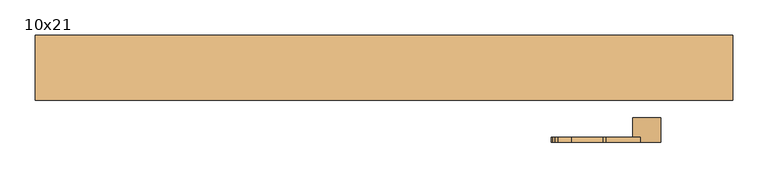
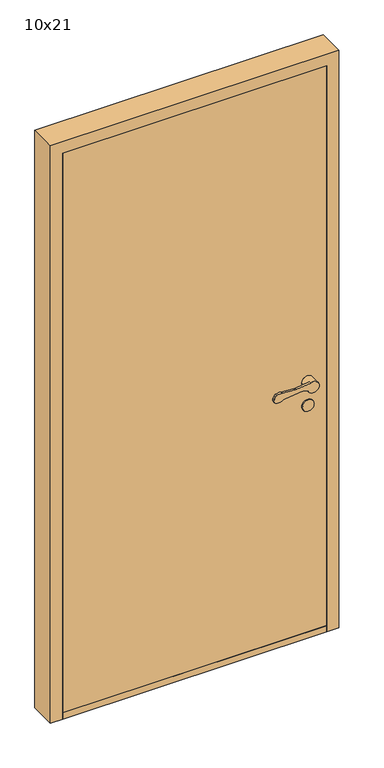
"""IFC4 building model written with IfcOpenShell, lengths in millimetres: door geometry, Innerdør Slett (Diplomat) : 10x21."""

from ifc_helpers import new_model, si_unit, point, frame, frame_2d, origin, origin_with_axes, place, context, project, spatial, polyline, circle_curve, trimmed, segment, composite_curve, outline, extrude, source, transform, mapped, element, save
from ifc_brep_helpers import plane_surface, cylinder_surface, revolved_surface, advanced_brep


def door_10x21_b150b6ae(model_context):
    return source(origin(), model_context, "Body", "SolidModel", [
        advanced_brep(
        [(393.9611305, 45.0, 949.1175955), (388.8520664, 45.0, 949.9496913), (326.0476109, 45.0, 943.6260011), (296.721536, 45.0, 938.7393398), (291.8691983, 45.0, 951.8913379), (295.505009, 45.0, 959.9624074), (300.3175669, 45.0, 964.8810513), (318.8963175, 45.0, 967.2639242), (363.6202158, 45.0, 964.1804415), (368.6891233, 45.0, 964.26032), (417.2687793, 45.0, 969.1517356), (446.379633, 45.0, 951.3474568), (408.3841161, 45.0, 942.6204086), (368.6891233, 37.8915284, 964.26032), (363.6202158, 37.8915284, 964.1804415), (318.8963175, 37.8915284, 967.2639242), (300.3175669, 37.8915284, 964.8810513), (295.505009, 37.8915284, 959.9624074), (291.8691983, 37.8915284, 951.8913379), (296.721536, 37.8915284, 938.7393398), (326.0476109, 37.8915284, 943.6260011), (388.8520664, 37.8915284, 949.9496913), (393.9611305, 37.8915284, 949.1175955), (408.3841161, 37.8915284, 942.6204086), (406.379633, 37.8915284, 951.3474568), (417.2687793, 37.8915284, 969.1517356), (446.379633, 10.0, 951.3474568), (406.379633, 10.0, 951.3474568)],
        [
            (0, 1, circle_curve(frame((389.8538865, 45.0, 940.0), z_axis=(0.0, -1.0, 0.0), x_axis=(-0.9949691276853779, 0.0, -0.10018200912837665)), 10.0)),
            (1, 2),
            (2, 3, circle_curve(frame((307.8569644, 45.0, 962.352734), z_axis=(0.0, 1.0, 0.0), x_axis=(-0.9949691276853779, 0.0, -0.10018200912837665)), 26.1072815)),
            (3, 4, circle_curve(frame((300.9867937, 45.0, 947.7840939), z_axis=(0.0, 1.0, 0.0), x_axis=(-0.9949691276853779, 0.0, -0.10018200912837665)), 10.0)),
            (4, 5),
            (5, 6, circle_curve(frame((304.6226045, 45.0, 955.8551634), z_axis=(0.0, 1.0, 0.0), x_axis=(-0.9949691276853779, 0.0, -0.10018200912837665)), 10.0)),
            (6, 7, circle_curve(frame((313.2326797, 45.0, 937.8033877), z_axis=(0.0, 1.0, 0.0), x_axis=(-0.9949691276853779, 0.0, -0.10018200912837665)), 30.0)),
            (7, 8),
            (8, 9, circle_curve(frame((365.683663, 45.0, 994.1093938), z_axis=(0.0, -1.0, 0.0), x_axis=(-0.9949691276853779, 0.0, -0.10018200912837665)), 30.0)),
            (9, 10),
            (10, 11, circle_curve(frame((426.379633, 45.0, 951.3474568), z_axis=(0.0, 1.0, 0.0), x_axis=(-1.0, 0.0, 0.0)), 20.0)),
            (11, 12, circle_curve(frame((426.379633, 45.0, 951.3474568), z_axis=(0.0, 1.0, 0.0), x_axis=(-1.0, 0.0, 0.0)), 20.0)),
            (12, 0),
            (13, 14, circle_curve(frame((365.683663, 37.8915284, 994.1093938), z_axis=(0.0, 1.0, 0.0), x_axis=(-0.9949691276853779, 0.0, -0.10018200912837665)), 30.0)),
            (14, 15),
            (15, 16, circle_curve(frame((313.2326797, 37.8915284, 937.8033877), z_axis=(0.0, -1.0, 0.0), x_axis=(-0.9949691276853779, 0.0, -0.10018200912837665)), 30.0)),
            (16, 17, circle_curve(frame((304.6226045, 37.8915284, 955.8551634), z_axis=(0.0, -1.0, 0.0), x_axis=(-0.9949691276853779, 0.0, -0.10018200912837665)), 10.0)),
            (17, 18),
            (18, 19, circle_curve(frame((300.9867937, 37.8915284, 947.7840939), z_axis=(0.0, -1.0, 0.0), x_axis=(-0.9949691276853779, 0.0, -0.10018200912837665)), 10.0)),
            (19, 20, circle_curve(frame((307.8569644, 37.8915284, 962.352734), z_axis=(0.0, -1.0, 0.0), x_axis=(-0.9949691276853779, 0.0, -0.10018200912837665)), 26.1072815)),
            (20, 21),
            (21, 22, circle_curve(frame((389.8538865, 37.8915284, 940.0), z_axis=(0.0, 1.0, 0.0), x_axis=(-0.9949691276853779, 0.0, -0.10018200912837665)), 10.0)),
            (22, 23),
            (23, 24, circle_curve(frame((426.379633, 37.8915284, 951.3474568), z_axis=(0.0, 1.0, 0.0), x_axis=(-1.0, 0.0, 0.0)), 20.0)),
            (24, 25, circle_curve(frame((426.379633, 37.8915284, 951.3474568), z_axis=(0.0, 1.0, 0.0), x_axis=(-1.0, 0.0, 0.0)), 20.0)),
            (25, 13),
            (9, 13),
            (25, 10),
            (22, 0),
            (12, 23),
            (21, 1),
            (20, 2),
            (19, 3),
            (18, 4),
            (17, 5),
            (16, 6),
            (15, 7),
            (14, 8),
            (26, 27, circle_curve(frame((426.379633, 10.0, 951.3474568), z_axis=(0.0, -1.0, 0.0), x_axis=(-1.0, 0.0, 0.0)), 20.0)),
            (27, 26, circle_curve(frame((426.379633, 10.0, 951.3474568), z_axis=(0.0, -1.0, 0.0), x_axis=(-1.0, 0.0, 0.0)), 20.0)),
            (27, 24),
            (11, 26),
        ],
        [
            plane_surface(frame((417.6960588, 45.0, 969.1947577), z_axis=(0.0, 1.0000000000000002, 0.0), x_axis=(0.9949691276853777, 0.0, 0.10018200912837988))),
            plane_surface(frame((417.6960588, 37.8915284, 969.1947577), z_axis=(0.0, -1.0000000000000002, 0.0), x_axis=(-0.9949691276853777, 0.0, -0.10018200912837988))),
            plane_surface(frame((368.6891233, 45.0, 964.26032), z_axis=(-0.10018200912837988, 0.0, 0.9949691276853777), x_axis=(0.0, -1.0, 0.0))),
            plane_surface(frame((426.9687366, 45.0, 934.2485115), z_axis=(-0.41072439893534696, 0.0, -0.91175954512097), x_axis=(0.0, -1.0, 0.0))),
            revolved_surface(polyline([(379.9041952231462, 37.8915284, 938.9981799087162), (379.9041952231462, 45.0, 938.9981799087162)]), (389.8538865, 37.8915284, 940.0), (0.0, -1.0, 0.0)),
            plane_surface(frame((388.8520664, 45.0, 949.9496913), z_axis=(0.10018200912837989, 0.0, -0.9949691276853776), x_axis=(0.0, -1.0, 0.0))),
            cylinder_surface(frame((307.8569644, 37.8915284, 962.352734), z_axis=(0.0, 1.0, 0.0), x_axis=(-0.9949691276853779, 0.0, -0.10018200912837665)), 26.1072815),
            cylinder_surface(frame((300.9867937, 37.8915284, 947.7840939), z_axis=(0.0, 1.0, 0.0), x_axis=(-0.9949691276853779, 0.0, -0.10018200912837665)), 10.0),
            plane_surface(frame((291.8691983, 45.0, 951.8913379), z_axis=(-0.9117595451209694, 0.0, 0.41072439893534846), x_axis=(0.0, -1.0, 0.0))),
            cylinder_surface(frame((304.6226045, 37.8915284, 955.8551634), z_axis=(0.0, 1.0, 0.0), x_axis=(-0.9949691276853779, 0.0, -0.10018200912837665)), 10.0),
            cylinder_surface(frame((313.2326797, 37.8915284, 937.8033877), z_axis=(0.0, 1.0, 0.0), x_axis=(-0.9949691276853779, 0.0, -0.10018200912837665)), 30.0),
            plane_surface(frame((318.8963175, 45.0, 967.2639242), z_axis=(0.06878157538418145, 0.0, 0.9976317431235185), x_axis=(0.0, -1.0, 0.0))),
            revolved_surface(polyline([(335.8345891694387, 37.8915284, 991.1039335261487), (335.8345891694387, 45.0, 991.1039335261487)]), (365.683663, 37.8915284, 994.1093938), (0.0, -1.0, 0.0)),
            plane_surface(frame((406.379633, 10.0, 951.3474568), z_axis=(0.0, -1.0, 0.0), x_axis=(0.0, 0.0, -1.0))),
            cylinder_surface(frame((426.379633, 10.0, 951.3474568), z_axis=(0.0, 1.0, 0.0), x_axis=(-1.0, 0.0, 0.0)), 20.0),
        ],
        [
            (0, [[1, 2, 3, 4, 5, 6, 7, 8, 9, 10, 11, 12, 13]]),
            (1, [[14, 15, 16, 17, 18, 19, 20, 21, 22, 23, 24, 25, 26]]),
            (2, [[27, -26, 28, -10]]),
            (3, [[29, -13, 30, -23]]),
            (4, [[-1, -29, -22, 31]]),
            (5, [[-2, -31, -21, 32]]),
            (6, [[-3, -32, -20, 33]]),
            (7, [[-4, -33, -19, 34]]),
            (8, [[-5, -34, -18, 35]]),
            (9, [[-6, -35, -17, 36]]),
            (10, [[-7, -36, -16, 37]]),
            (11, [[-8, -37, -15, 38]]),
            (12, [[-9, -38, -14, -27]]),
            (13, [[39, 40]]),
            (14, [[-40, 41, -24, -30, -12, 42]]),
            (14, [[-39, -42, -11, -28, -25, -41]]),
        ],
    ),
        extrude(outline(composite_curve([segment(trimmed(circle_curve(frame_2d((866.3474568, 426.379633)), 20.0), [point((866.3474568, 446.379633))], [point((866.3474568, 406.379633))], False, "CARTESIAN"), True, "CONTINUOUS"), segment(trimmed(circle_curve(frame_2d((866.3474568, 426.379633)), 20.0), [point((866.3474568, 406.379633))], [point((866.3474568, 446.379633))], False, "CARTESIAN"), True, "CONTINUOUS")], self_intersect=False)), frame((0.0, 10.0, 0.0), z_axis=(0.0, 1.0, 0.0), x_axis=(0.0, 0.0, 1.0)), (0.0, 0.0, 1.0), 5.0),
        advanced_brep(
        [(393.9611305, -100.0, 949.1175955), (408.3841161, -100.0, 942.6204086), (446.379633, -100.0, 951.3474568), (417.2687793, -100.0, 969.1517356), (368.6891233, -100.0, 964.26032), (363.6202158, -100.0, 964.1804415), (318.8963175, -100.0, 967.2639242), (300.3175669, -100.0, 964.8810513), (295.505009, -100.0, 959.9624074), (291.8691983, -100.0, 951.8913379), (296.721536, -100.0, 938.7393398), (326.0476109, -100.0, 943.6260011), (388.8520664, -100.0, 949.9496913), (368.6891233, -92.8915284, 964.26032), (417.2687793, -92.8915284, 969.1517356), (406.379633, -92.8915284, 951.3474568), (408.3841161, -92.8915284, 942.6204086), (393.9611305, -92.8915284, 949.1175955), (388.8520664, -92.8915284, 949.9496913), (326.0476109, -92.8915284, 943.6260011), (296.721536, -92.8915284, 938.7393398), (291.8691983, -92.8915284, 951.8913379), (295.505009, -92.8915284, 959.9624074), (300.3175669, -92.8915284, 964.8810513), (318.8963175, -92.8915284, 967.2639242), (363.6202158, -92.8915284, 964.1804415), (446.379633, -65.0, 951.3474568), (406.379633, -65.0, 951.3474568)],
        [
            (0, 1),
            (1, 2, circle_curve(frame((426.379633, -100.0, 951.3474568), z_axis=(0.0, -1.0, 0.0), x_axis=(-1.0, 0.0, 0.0)), 20.0)),
            (2, 3, circle_curve(frame((426.379633, -100.0, 951.3474568), z_axis=(0.0, -1.0, 0.0), x_axis=(-1.0, 0.0, 0.0)), 20.0)),
            (3, 4),
            (4, 5, circle_curve(frame((365.683663, -100.0, 994.1093938), z_axis=(0.0, 1.0, 0.0), x_axis=(-0.9949691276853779, 0.0, -0.10018200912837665)), 30.0)),
            (5, 6),
            (6, 7, circle_curve(frame((313.2326797, -100.0, 937.8033877), z_axis=(0.0, -1.0, 0.0), x_axis=(-0.9949691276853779, 0.0, -0.10018200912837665)), 30.0)),
            (7, 8, circle_curve(frame((304.6226045, -100.0, 955.8551634), z_axis=(0.0, -1.0, 0.0), x_axis=(-0.9949691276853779, 0.0, -0.10018200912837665)), 10.0)),
            (8, 9),
            (9, 10, circle_curve(frame((300.9867937, -100.0, 947.7840939), z_axis=(0.0, -1.0, 0.0), x_axis=(-0.9949691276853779, 0.0, -0.10018200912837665)), 10.0)),
            (10, 11, circle_curve(frame((307.8569644, -100.0, 962.352734), z_axis=(0.0, -1.0, 0.0), x_axis=(-0.9949691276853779, 0.0, -0.10018200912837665)), 26.1072815)),
            (11, 12),
            (12, 0, circle_curve(frame((389.8538865, -100.0, 940.0), z_axis=(0.0, 1.0, 0.0), x_axis=(-0.9949691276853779, 0.0, -0.10018200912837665)), 10.0)),
            (13, 14),
            (14, 15, circle_curve(frame((426.379633, -92.8915284, 951.3474568), z_axis=(0.0, -1.0, 0.0), x_axis=(-1.0, 0.0, 0.0)), 20.0)),
            (15, 16, circle_curve(frame((426.379633, -92.8915284, 951.3474568), z_axis=(0.0, -1.0, 0.0), x_axis=(-1.0, 0.0, 0.0)), 20.0)),
            (16, 17),
            (17, 18, circle_curve(frame((389.8538865, -92.8915284, 940.0), z_axis=(0.0, -1.0, 0.0), x_axis=(-0.9949691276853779, 0.0, -0.10018200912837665)), 10.0)),
            (18, 19),
            (19, 20, circle_curve(frame((307.8569644, -92.8915284, 962.352734), z_axis=(0.0, 1.0, 0.0), x_axis=(-0.9949691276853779, 0.0, -0.10018200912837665)), 26.1072815)),
            (20, 21, circle_curve(frame((300.9867937, -92.8915284, 947.7840939), z_axis=(0.0, 1.0, 0.0), x_axis=(-0.9949691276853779, 0.0, -0.10018200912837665)), 10.0)),
            (21, 22),
            (22, 23, circle_curve(frame((304.6226045, -92.8915284, 955.8551634), z_axis=(0.0, 1.0, 0.0), x_axis=(-0.9949691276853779, 0.0, -0.10018200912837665)), 10.0)),
            (23, 24, circle_curve(frame((313.2326797, -92.8915284, 937.8033877), z_axis=(0.0, 1.0, 0.0), x_axis=(-0.9949691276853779, 0.0, -0.10018200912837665)), 30.0)),
            (24, 25),
            (25, 13, circle_curve(frame((365.683663, -92.8915284, 994.1093938), z_axis=(0.0, -1.0, 0.0), x_axis=(-0.9949691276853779, 0.0, -0.10018200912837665)), 30.0)),
            (3, 14),
            (13, 4),
            (16, 1),
            (0, 17),
            (12, 18),
            (11, 19),
            (10, 20),
            (9, 21),
            (8, 22),
            (7, 23),
            (6, 24),
            (5, 25),
            (26, 27, circle_curve(frame((426.379633, -65.0, 951.3474568), z_axis=(0.0, 1.0, 0.0), x_axis=(-1.0, 0.0, 0.0)), 20.0)),
            (27, 26, circle_curve(frame((426.379633, -65.0, 951.3474568), z_axis=(0.0, 1.0, 0.0), x_axis=(-1.0, 0.0, 0.0)), 20.0)),
            (26, 2),
            (15, 27),
        ],
        [
            plane_surface(frame((417.6960588, -100.0, 969.1947577), z_axis=(0.0, -1.0000000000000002, 0.0), x_axis=(0.9949691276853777, 0.0, 0.10018200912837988))),
            plane_surface(frame((417.6960588, -92.8915284, 969.1947577), z_axis=(0.0, 1.0000000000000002, 0.0), x_axis=(-0.9949691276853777, 0.0, -0.10018200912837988))),
            plane_surface(frame((368.6891233, -100.0, 964.26032), z_axis=(-0.10018200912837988, 0.0, 0.9949691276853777), x_axis=(0.0, 1.0, 0.0))),
            plane_surface(frame((426.9687366, -100.0, 934.2485115), z_axis=(-0.41072439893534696, 0.0, -0.91175954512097), x_axis=(0.0, 1.0, 0.0))),
            revolved_surface(polyline([(379.9041952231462, -92.8915284, 938.9981799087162), (379.9041952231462, -100.0, 938.9981799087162)]), (389.8538865, -92.8915284, 940.0), (0.0, 1.0, 0.0)),
            plane_surface(frame((388.8520664, -100.0, 949.9496913), z_axis=(0.10018200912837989, 0.0, -0.9949691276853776), x_axis=(0.0, 1.0, 0.0))),
            cylinder_surface(frame((307.8569644, -92.8915284, 962.352734), z_axis=(0.0, -1.0, 0.0), x_axis=(-0.9949691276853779, 0.0, -0.10018200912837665)), 26.1072815),
            cylinder_surface(frame((300.9867937, -92.8915284, 947.7840939), z_axis=(0.0, -1.0, 0.0), x_axis=(-0.9949691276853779, 0.0, -0.10018200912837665)), 10.0),
            plane_surface(frame((291.8691983, -100.0, 951.8913379), z_axis=(-0.9117595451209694, 0.0, 0.41072439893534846), x_axis=(0.0, 1.0, 0.0))),
            cylinder_surface(frame((304.6226045, -92.8915284, 955.8551634), z_axis=(0.0, -1.0, 0.0), x_axis=(-0.9949691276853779, 0.0, -0.10018200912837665)), 10.0),
            cylinder_surface(frame((313.2326797, -92.8915284, 937.8033877), z_axis=(0.0, -1.0, 0.0), x_axis=(-0.9949691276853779, 0.0, -0.10018200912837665)), 30.0),
            plane_surface(frame((318.8963175, -100.0, 967.2639242), z_axis=(0.06878157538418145, 0.0, 0.9976317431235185), x_axis=(0.0, 1.0, 0.0))),
            revolved_surface(polyline([(335.8345891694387, -92.8915284, 991.1039335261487), (335.8345891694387, -100.0, 991.1039335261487)]), (365.683663, -92.8915284, 994.1093938), (0.0, 1.0, 0.0)),
            plane_surface(frame((406.379633, -65.0, 951.3474568), z_axis=(0.0, 1.0, 0.0), x_axis=(0.0, 0.0, -1.0))),
            cylinder_surface(frame((426.379633, -65.0, 951.3474568), z_axis=(0.0, -1.0, 0.0), x_axis=(-1.0, 0.0, 0.0)), 20.0),
        ],
        [
            (0, [[1, 2, 3, 4, 5, 6, 7, 8, 9, 10, 11, 12, 13]]),
            (1, [[14, 15, 16, 17, 18, 19, 20, 21, 22, 23, 24, 25, 26]]),
            (2, [[-4, 27, -14, 28]]),
            (3, [[-17, 29, -1, 30]]),
            (4, [[31, -18, -30, -13]]),
            (5, [[32, -19, -31, -12]]),
            (6, [[33, -20, -32, -11]]),
            (7, [[34, -21, -33, -10]]),
            (8, [[35, -22, -34, -9]]),
            (9, [[36, -23, -35, -8]]),
            (10, [[37, -24, -36, -7]]),
            (11, [[38, -25, -37, -6]]),
            (12, [[-28, -26, -38, -5]]),
            (13, [[39, 40]]),
            (14, [[41, -2, -29, -16, 42, -39]]),
            (14, [[-42, -15, -27, -3, -41, -40]]),
        ],
    ),
        extrude(outline(composite_curve([segment(trimmed(circle_curve(frame_2d((866.3474568, 426.379633)), 20.0), [point((866.3474568, 446.379633))], [point((866.3474568, 406.379633))], False, "CARTESIAN"), True, "CONTINUOUS"), segment(trimmed(circle_curve(frame_2d((866.3474568, 426.379633)), 20.0), [point((866.3474568, 406.379633))], [point((866.3474568, 446.379633))], False, "CARTESIAN"), True, "CONTINUOUS")], self_intersect=False)), frame((0.0, -70.0, 0.0), z_axis=(0.0, 1.0, 0.0), x_axis=(0.0, 0.0, 1.0)), (0.0, 0.0, 1.0), 5.0),
        extrude(outline(polyline([(506.379633, 52.0), (506.379633, -40.0), (-399.620367, -40.0), (-399.620367, 52.0), (506.379633, 52.0)])), origin_with_axes(), (0.0, 0.0, 1.0), 22.0),
        extrude(outline(polyline([(506.379633, 10.0), (506.379633, -40.0), (-399.620367, -40.0), (-399.620367, 10.0), (506.379633, 10.0)])), frame((0.0, 0.0, 22.0), z_axis=(0.0, 0.0, 1.0), x_axis=(1.0, 0.0, 0.0)), (0.0, 0.0, 1.0), 2031.0),
        extrude(outline(polyline([(0.0, -399.620367), (2053.0, -399.620367), (2053.0, 506.379633), (0.0, 506.379633), (0.0, 548.379633), (2095.0, 548.379633), (2095.0, -441.620367), (0.0, -441.620367), (0.0, -399.620367)])), frame((0.0, -40.0, 0.0), z_axis=(0.0, 1.0, 0.0), x_axis=(0.0, 0.0, 1.0)), (0.0, 0.0, 1.0), 92.0),
    ])


if __name__ == "__main__":
    model = new_model("IFC4")
    model_context = context("Model", 3, world=origin())
    ifc_project = project(units=[si_unit("LENGTHUNIT", "METRE", prefix="MILLI")], contexts=[model_context])
    site = spatial("IfcSite", under=ifc_project)
    building = spatial("IfcBuilding", under=site)
    placement = place(None, origin())
    door_10x21_shape = door_10x21_b150b6ae(model_context)
    element("IfcDoor", 1, ObjectType="Innerdør Slett (Diplomat) : 10x21", at=placement, inside=building, context=model_context, shape_type="MappedRepresentation", body=[
        mapped(door_10x21_shape, transform((0.0, 0.0, 0.0), x_axis=(1.0, 0.0, 0.0), y_axis=(0.0, 1.0, 0.0), z_axis=(0.0, 0.0, 1.0))),
    ])
    save(model, "model.ifc")
